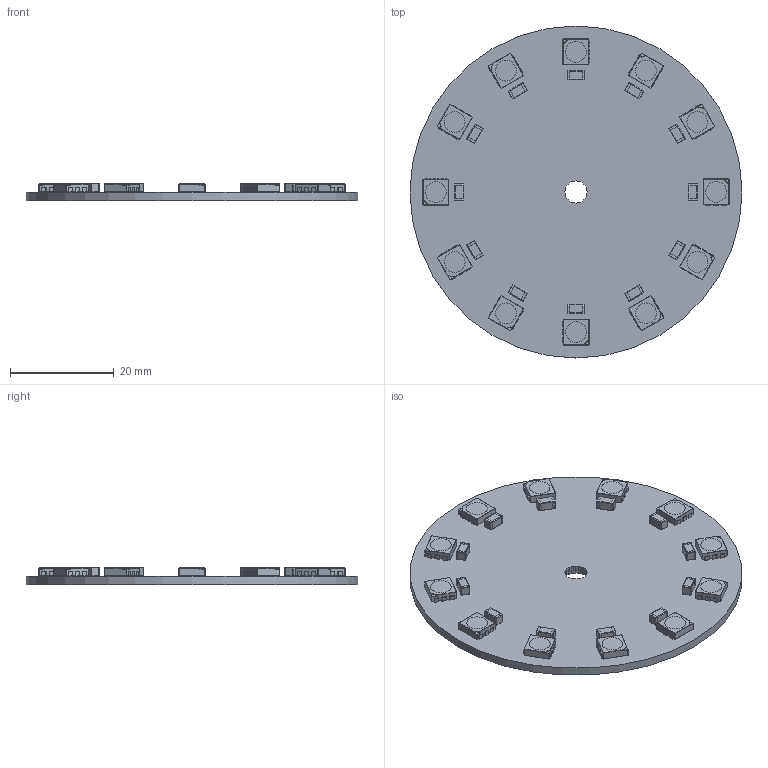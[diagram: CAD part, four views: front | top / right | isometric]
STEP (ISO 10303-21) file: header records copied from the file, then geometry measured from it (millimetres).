
FILE_DESCRIPTION(('Open CASCADE Model'),'2;1');
FILE_NAME('Open CASCADE Shape Model','2017-05-04T13:08:26',('Author'),( 'Open CASCADE'),'Open CASCADE STEP processor 6.5','Open CASCADE 6.5' ,'Unknown');
FILE_SCHEMA(('AUTOMOTIVE_DESIGN { 1 0 10303 214 1 1 1 1 }'));
Length unit declared in the file: millimetre
Products named in the file (30): PCB; Board; C1; CAPC-1206-T1.75-BN; SOLID; COMPOUND; C2; C3; C4; C5; C6; C7; C8; C9; C10; C11; C12; U1; User_Library-smd_led_5050; U2; U3; U4; U5; U6; U7; U8; U9; U10; U11; U12
Assembly tree (51 placements, depth 4):
  PCB
    Board
    C1
      CAPC-1206-T1.75-BN
        SOLID
        COMPOUND
    C2
      CAPC-1206-T1.75-BN
        SOLID
        COMPOUND
    C3
      CAPC-1206-T1.75-BN
        SOLID
        COMPOUND
    C4
      CAPC-1206-T1.75-BN
        SOLID
        COMPOUND
    C5
      CAPC-1206-T1.75-BN
        SOLID
        COMPOUND
    C6
      CAPC-1206-T1.75-BN
        SOLID
        COMPOUND
    C7
      CAPC-1206-T1.75-BN
        SOLID
        COMPOUND
    C8
      CAPC-1206-T1.75-BN
        SOLID
        COMPOUND
    C9
      CAPC-1206-T1.75-BN
        SOLID
        COMPOUND
    C10
      CAPC-1206-T1.75-BN
        SOLID
        COMPOUND
    C11
      CAPC-1206-T1.75-BN
        SOLID
        COMPOUND
    C12
      CAPC-1206-T1.75-BN
        SOLID
        COMPOUND
    U1
      User_Library-smd_led_5050
    U2
      User_Library-smd_led_5050
    U3
      User_Library-smd_led_5050
    U4
      User_Library-smd_led_5050
    U5
      User_Library-smd_led_5050
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Bounding box: 64 x 64 x 3.4 mm (x, y, z)
Volume: 5858.9 mm3; surface area: 8098.2 mm2
Topology: 25 solids, 25 shells, 2075 faces, 4935 edges, 2922 vertices
Faces by surface type: plane 1738, cylinder 241, sphere 96
Full cylindrical faces by diameter (mm): 64 x1
Entity records: 15759 total; most frequent: CARTESIAN_POINT 4108, DIRECTION 1886, LINE 1248, VECTOR 1248, ORIENTED_EDGE 972, PCURVE 972, DEFINITIONAL_REPRESENTATION 972, EDGE_CURVE 486
